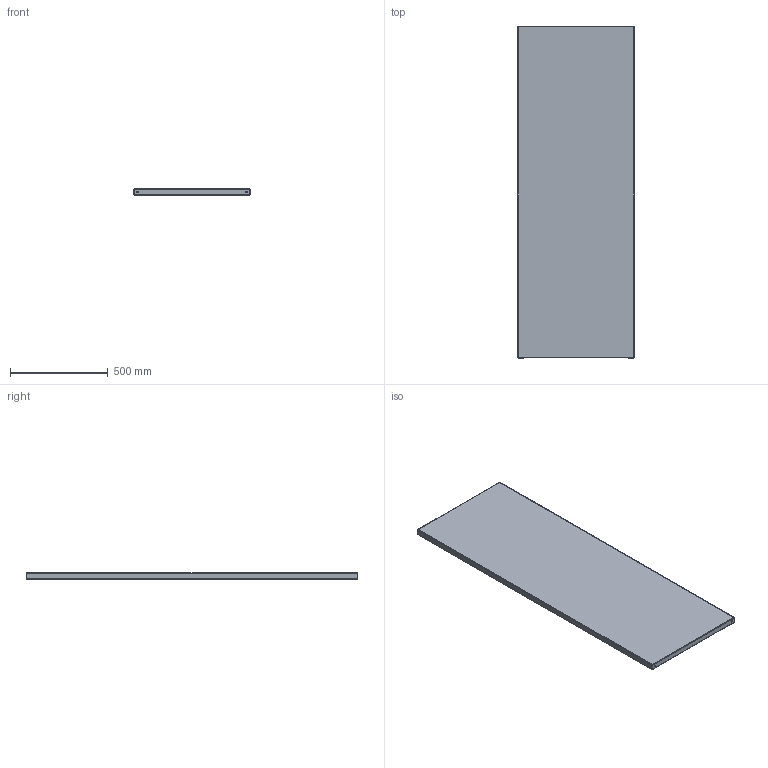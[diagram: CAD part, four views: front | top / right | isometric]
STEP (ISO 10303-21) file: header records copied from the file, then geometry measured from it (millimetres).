
FILE_DESCRIPTION((''),'2;1');
FILE_NAME('MODEL-448_ASM','2024-04-26T15:25:26',('johnh'),('SAGINAW CONTROL & ENGINEERING'),'CREO PARAMETRIC BY PTC INC, 2021284','CREO PARAMETRIC BY PTC INC, 2021284','');
FILE_SCHEMA(('AUTOMOTIVE_DESIGN { 1 0 10303 214 1 1 1 1 }'));
Length unit declared in the file: inch
Products named in the file (3): MODEL-448-END-PLT; 130515; MODEL-448_ASM
Assembly tree (2 placements, depth 2):
  MODEL-448_ASM
    MODEL-448-END-PLT
    130515
Bounding box: 596.9 x 1701.8 x 31.75 mm (x, y, z)
Volume: 1946997.8 mm3; surface area: 2564257.2 mm2
Topology: 1 solids, 1 shells, 262 faces, 716 edges, 456 vertices
Faces by surface type: cylinder 128, plane 114, bspline 20
Entity records: 11668 total; most frequent: CARTESIAN_POINT 2163, ORIENTED_EDGE 1432, DIRECTION 1402, PRESENTATION_STYLE_ASSIGNMENT 717, STYLED_ITEM 717, CURVE_STYLE 716, EDGE_CURVE 716, AXIS2_PLACEMENT_3D 479
